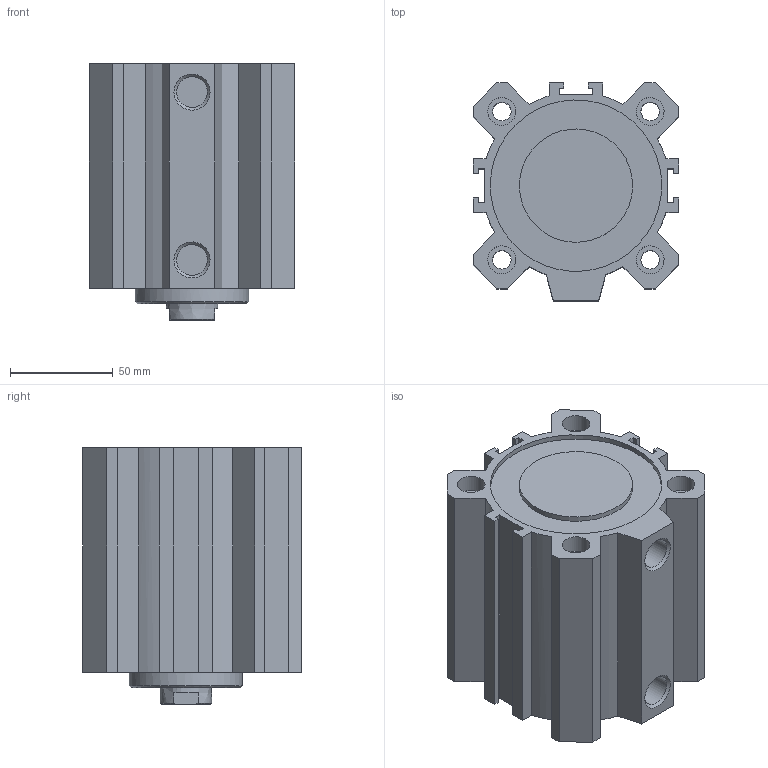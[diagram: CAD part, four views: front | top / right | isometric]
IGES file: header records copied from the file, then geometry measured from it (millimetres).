
Global section: file name: 1511_80_0060; native system: Autodesk Inventor 2014; preprocessor: unknown; author: A. Manieri; date: 20160824.142227; units: millimetre
Bounding box: 100 x 106 x 124.5 mm (x, y, z)
Volume: 623543.4 mm3; surface area: 144200.2 mm2
Topology: 2 solids, 2 shells, 119 faces, 307 edges, 210 vertices
Faces by surface type: bspline 119
